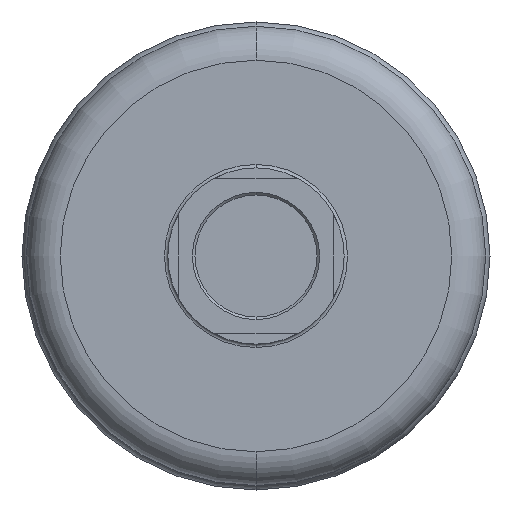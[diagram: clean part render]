
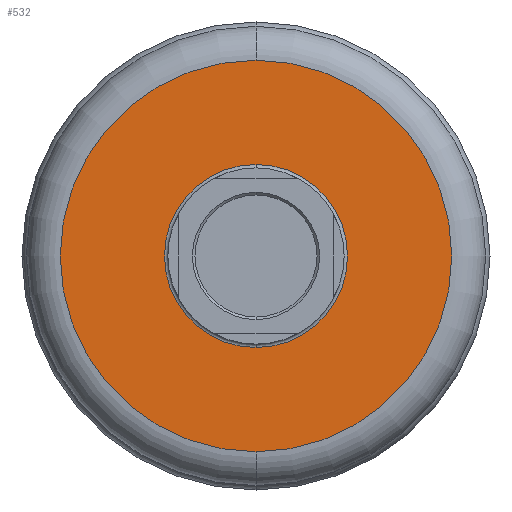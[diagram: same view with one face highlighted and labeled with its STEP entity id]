
A CAD part, front view. The second image highlights one B-rep face of the part: STEP entity #532.
In plain terms, the highlighted planar face has unit normal (0, -1, 0).
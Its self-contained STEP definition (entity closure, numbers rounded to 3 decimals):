
#114 = ORIENTED_EDGE ( 'NONE', *, *, #13134, .F. ) ;
#308 = AXIS2_PLACEMENT_3D ( 'NONE', #2524, #2667, #6985 ) ;
#403 = CARTESIAN_POINT ( 'NONE',  ( 0., 20., 0. ) ) ;
#445 = EDGE_LOOP ( 'NONE', ( #9289, #4157 ) ) ;
#532 = ADVANCED_FACE ( 'NONE', ( #6112, #9339 ), #11832, .T. ) ;
#1111 = DIRECTION ( 'NONE',  ( 0., 1., 0. ) ) ;
#1132 = VERTEX_POINT ( 'NONE', #3966 ) ;
#1414 = EDGE_LOOP ( 'NONE', ( #114, #5645 ) ) ;
#1914 = AXIS2_PLACEMENT_3D ( 'NONE', #9006, #6808, #9146 ) ;
#2284 = VERTEX_POINT ( 'NONE', #9600 ) ;
#2524 = CARTESIAN_POINT ( 'NONE',  ( 0., 20., 0. ) ) ;
#2667 = DIRECTION ( 'NONE',  ( 0., 1., 0. ) ) ;
#3966 = CARTESIAN_POINT ( 'NONE',  ( 0., 20., -115.5 ) ) ;
#4157 = ORIENTED_EDGE ( 'NONE', *, *, #14400, .T. ) ;
#5645 = ORIENTED_EDGE ( 'NONE', *, *, #14254, .F. ) ;
#6112 = FACE_BOUND ( 'NONE', #445, .T. ) ;
#6199 = DIRECTION ( 'NONE',  ( 0., -1., 0. ) ) ;
#6269 = DIRECTION ( 'NONE',  ( 0., 0., -1. ) ) ;
#6803 = AXIS2_PLACEMENT_3D ( 'NONE', #8864, #1111, #7961 ) ;
#6808 = DIRECTION ( 'NONE',  ( 0., 1., 0. ) ) ;
#6857 = CIRCLE ( 'NONE', #308, 115.5 ) ;
#6985 = DIRECTION ( 'NONE',  ( 0., 0., 1. ) ) ;
#7624 = AXIS2_PLACEMENT_3D ( 'NONE', #403, #9183, #10214 ) ;
#7961 = DIRECTION ( 'NONE',  ( 0., 0., 1. ) ) ;
#8085 = VERTEX_POINT ( 'NONE', #10889 ) ;
#8864 = CARTESIAN_POINT ( 'NONE',  ( 0., 20., 0. ) ) ;
#9006 = CARTESIAN_POINT ( 'NONE',  ( 0., 20., 0. ) ) ;
#9146 = DIRECTION ( 'NONE',  ( 0., 0., 1. ) ) ;
#9183 = DIRECTION ( 'NONE',  ( 0., 1., 0. ) ) ;
#9289 = ORIENTED_EDGE ( 'NONE', *, *, #9353, .T. ) ;
#9339 = FACE_OUTER_BOUND ( 'NONE', #1414, .T. ) ;
#9353 = EDGE_CURVE ( 'NONE', #2284, #14307, #12744, .T. ) ;
#9600 = CARTESIAN_POINT ( 'NONE',  ( 0., 20., 54. ) ) ;
#10214 = DIRECTION ( 'NONE',  ( 0., 0., 1. ) ) ;
#10889 = CARTESIAN_POINT ( 'NONE',  ( 0., 20., 115.5 ) ) ;
#11250 = CIRCLE ( 'NONE', #1914, 54. ) ;
#11832 = PLANE ( 'NONE',  #12865 ) ;
#12744 = CIRCLE ( 'NONE', #7624, 54. ) ;
#12865 = AXIS2_PLACEMENT_3D ( 'NONE', #13948, #6199, #6269 ) ;
#13134 = EDGE_CURVE ( 'NONE', #8085, #1132, #6857, .T. ) ;
#13461 = CARTESIAN_POINT ( 'NONE',  ( 0., 20., -54. ) ) ;
#13948 = CARTESIAN_POINT ( 'NONE',  ( -54., 20., 0. ) ) ;
#14057 = CIRCLE ( 'NONE', #6803, 115.5 ) ;
#14254 = EDGE_CURVE ( 'NONE', #1132, #8085, #14057, .T. ) ;
#14307 = VERTEX_POINT ( 'NONE', #13461 ) ;
#14400 = EDGE_CURVE ( 'NONE', #14307, #2284, #11250, .T. ) ;
